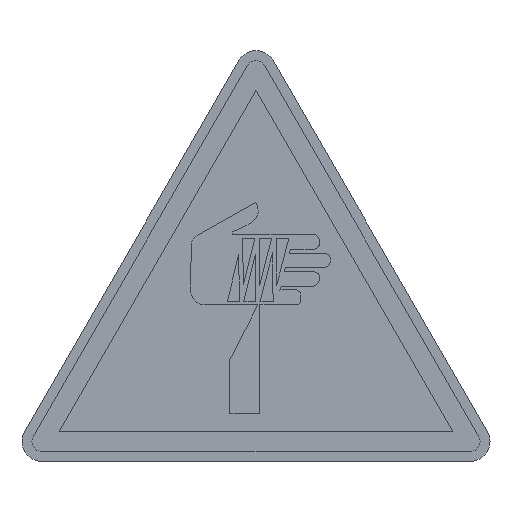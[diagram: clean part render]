
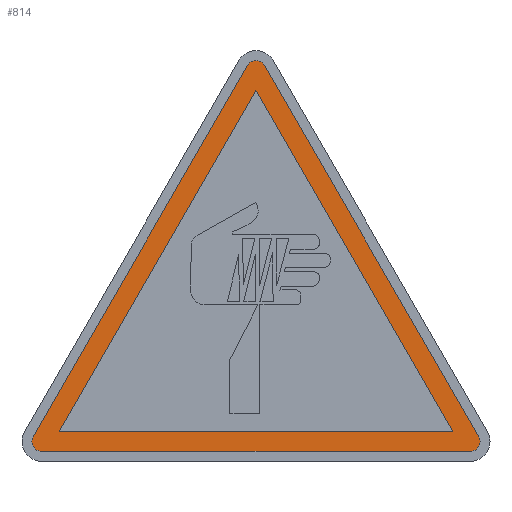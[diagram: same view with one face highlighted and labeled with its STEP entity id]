
A CAD part, top view. The second image highlights one B-rep face of the part: STEP entity #814.
In plain terms, the highlighted planar face has unit normal (0, 0, 1).
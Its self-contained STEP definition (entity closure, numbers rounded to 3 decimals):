
#9 = AXIS2_PLACEMENT_3D ( 'NONE', #2768, #2720, #1974 ) ;
#163 = EDGE_LOOP ( 'NONE', ( #2134, #1978, #3300 ) ) ;
#184 = DIRECTION ( 'NONE',  ( 0., 0., 1. ) ) ;
#216 = AXIS2_PLACEMENT_3D ( 'NONE', #1429, #1455, #1703 ) ;
#225 = VECTOR ( 'NONE', #1623, 1000. ) ;
#227 = CIRCLE ( 'NONE', #9, 1. ) ;
#273 = EDGE_CURVE ( 'NONE', #3422, #474, #2354, .T. ) ;
#321 = EDGE_CURVE ( 'NONE', #1335, #3368, #2371, .T. ) ;
#338 = CIRCLE ( 'NONE', #447, 1. ) ;
#424 = DIRECTION ( 'NONE',  ( 0., 0., 1. ) ) ;
#447 = AXIS2_PLACEMENT_3D ( 'NONE', #2148, #184, #3199 ) ;
#450 = EDGE_CURVE ( 'NONE', #1555, #1294, #227, .T. ) ;
#474 = VERTEX_POINT ( 'NONE', #1196 ) ;
#534 = PLANE ( 'NONE',  #216 ) ;
#602 = DIRECTION ( 'NONE',  ( 1., 0., 0. ) ) ;
#682 = DIRECTION ( 'NONE',  ( 1., 0., 0. ) ) ;
#713 = CARTESIAN_POINT ( 'NONE',  ( -21.536, 1., 0.22 ) ) ;
#732 = LINE ( 'NONE', #2920, #3157 ) ;
#736 = EDGE_CURVE ( 'NONE', #1294, #3389, #732, .T. ) ;
#783 = VERTEX_POINT ( 'NONE', #3490 ) ;
#784 = EDGE_LOOP ( 'NONE', ( #3411, #1601, #3003, #1484, #3058, #2183, #2713 ) ) ;
#814 = ADVANCED_FACE ( 'NONE', ( #1898, #877 ), #534, .T. ) ;
#877 = FACE_BOUND ( 'NONE', #163, .T. ) ;
#997 = DIRECTION ( 'NONE',  ( -0.5, -0.866, 0. ) ) ;
#1002 = EDGE_CURVE ( 'NONE', #2238, #1555, #1205, .T. ) ;
#1006 = CIRCLE ( 'NONE', #1460, 1. ) ;
#1052 = CARTESIAN_POINT ( 'NONE',  ( -21.536, 1., 0.22 ) ) ;
#1196 = CARTESIAN_POINT ( 'NONE',  ( 21.536, 1., 0.22 ) ) ;
#1201 = CARTESIAN_POINT ( 'NONE',  ( 19.804, 3., 0.22 ) ) ;
#1205 = LINE ( 'NONE', #3061, #1481 ) ;
#1294 = VERTEX_POINT ( 'NONE', #2684 ) ;
#1335 = VERTEX_POINT ( 'NONE', #2253 ) ;
#1342 = CARTESIAN_POINT ( 'NONE',  ( 0.866, 39.801, 0.22 ) ) ;
#1366 = CARTESIAN_POINT ( 'NONE',  ( -19.804, 3., 0.22 ) ) ;
#1395 = EDGE_CURVE ( 'NONE', #1634, #1335, #3318, .T. ) ;
#1415 = CARTESIAN_POINT ( 'NONE',  ( 19.804, 3., 0.22 ) ) ;
#1429 = CARTESIAN_POINT ( 'NONE',  ( 0., 39.301, 0.22 ) ) ;
#1455 = DIRECTION ( 'NONE',  ( 0., 0., 1. ) ) ;
#1460 = AXIS2_PLACEMENT_3D ( 'NONE', #1530, #424, #682 ) ;
#1481 = VECTOR ( 'NONE', #2783, 1000. ) ;
#1484 = ORIENTED_EDGE ( 'NONE', *, *, #1805, .T. ) ;
#1530 = CARTESIAN_POINT ( 'NONE',  ( -21.536, 2., 0.22 ) ) ;
#1555 = VERTEX_POINT ( 'NONE', #1342 ) ;
#1577 = CIRCLE ( 'NONE', #1704, 1. ) ;
#1601 = ORIENTED_EDGE ( 'NONE', *, *, #736, .T. ) ;
#1623 = DIRECTION ( 'NONE',  ( -0.5, -0.866, 0. ) ) ;
#1634 = VERTEX_POINT ( 'NONE', #1415 ) ;
#1701 = VECTOR ( 'NONE', #1845, 1000. ) ;
#1703 = DIRECTION ( 'NONE',  ( 1., 0., 0. ) ) ;
#1704 = AXIS2_PLACEMENT_3D ( 'NONE', #3316, #3287, #602 ) ;
#1805 = EDGE_CURVE ( 'NONE', #783, #3422, #1006, .T. ) ;
#1834 = DIRECTION ( 'NONE',  ( -0.5, 0.866, 0. ) ) ;
#1845 = DIRECTION ( 'NONE',  ( 1., 0., 0. ) ) ;
#1874 = EDGE_CURVE ( 'NONE', #3368, #1634, #2123, .T. ) ;
#1898 = FACE_OUTER_BOUND ( 'NONE', #784, .T. ) ;
#1911 = CARTESIAN_POINT ( 'NONE',  ( 22.402, 2.5, 0.22 ) ) ;
#1956 = EDGE_CURVE ( 'NONE', #474, #2238, #1577, .T. ) ;
#1974 = DIRECTION ( 'NONE',  ( 1., 0., 0. ) ) ;
#1978 = ORIENTED_EDGE ( 'NONE', *, *, #321, .F. ) ;
#2082 = DIRECTION ( 'NONE',  ( 1., 0., 0. ) ) ;
#2123 = LINE ( 'NONE', #3178, #1701 ) ;
#2134 = ORIENTED_EDGE ( 'NONE', *, *, #1874, .F. ) ;
#2148 = CARTESIAN_POINT ( 'NONE',  ( -21.536, 2., 0.22 ) ) ;
#2183 = ORIENTED_EDGE ( 'NONE', *, *, #1956, .T. ) ;
#2238 = VERTEX_POINT ( 'NONE', #1911 ) ;
#2253 = CARTESIAN_POINT ( 'NONE',  ( 0., 37.301, 0.22 ) ) ;
#2327 = VECTOR ( 'NONE', #1834, 1000. ) ;
#2354 = LINE ( 'NONE', #713, #3117 ) ;
#2371 = LINE ( 'NONE', #3420, #225 ) ;
#2684 = CARTESIAN_POINT ( 'NONE',  ( -0.866, 39.801, 0.22 ) ) ;
#2713 = ORIENTED_EDGE ( 'NONE', *, *, #1002, .T. ) ;
#2720 = DIRECTION ( 'NONE',  ( 0., 0., 1. ) ) ;
#2768 = CARTESIAN_POINT ( 'NONE',  ( 0., 39.301, 0.22 ) ) ;
#2775 = EDGE_CURVE ( 'NONE', #3389, #783, #338, .T. ) ;
#2783 = DIRECTION ( 'NONE',  ( -0.5, 0.866, 0. ) ) ;
#2920 = CARTESIAN_POINT ( 'NONE',  ( -0.866, 39.801, 0.22 ) ) ;
#3003 = ORIENTED_EDGE ( 'NONE', *, *, #2775, .T. ) ;
#3034 = CARTESIAN_POINT ( 'NONE',  ( -22.402, 2.5, 0.22 ) ) ;
#3058 = ORIENTED_EDGE ( 'NONE', *, *, #273, .T. ) ;
#3061 = CARTESIAN_POINT ( 'NONE',  ( 22.402, 2.5, 0.22 ) ) ;
#3117 = VECTOR ( 'NONE', #2082, 1000. ) ;
#3157 = VECTOR ( 'NONE', #997, 1000. ) ;
#3178 = CARTESIAN_POINT ( 'NONE',  ( -19.804, 3., 0.22 ) ) ;
#3199 = DIRECTION ( 'NONE',  ( 1., 0., 0. ) ) ;
#3287 = DIRECTION ( 'NONE',  ( 0., 0., 1. ) ) ;
#3300 = ORIENTED_EDGE ( 'NONE', *, *, #1395, .F. ) ;
#3316 = CARTESIAN_POINT ( 'NONE',  ( 21.536, 2., 0.22 ) ) ;
#3318 = LINE ( 'NONE', #1201, #2327 ) ;
#3368 = VERTEX_POINT ( 'NONE', #1366 ) ;
#3389 = VERTEX_POINT ( 'NONE', #3034 ) ;
#3411 = ORIENTED_EDGE ( 'NONE', *, *, #450, .T. ) ;
#3420 = CARTESIAN_POINT ( 'NONE',  ( 0., 37.301, 0.22 ) ) ;
#3422 = VERTEX_POINT ( 'NONE', #1052 ) ;
#3490 = CARTESIAN_POINT ( 'NONE',  ( -22.536, 2., 0.22 ) ) ;
